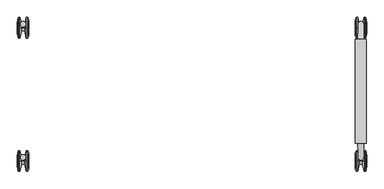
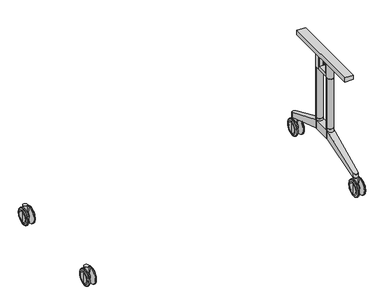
"""IFC4 building model written with IfcOpenShell, lengths in millimetres: furniture geometry."""

from ifc_helpers import new_model, si_unit, point, frame, frame_2d, origin, place, context, project, spatial, polyline, circle_curve, ellipse_curve, trimmed, segment, composite_curve, outline, extrude, source, transform, mapped, element, save
from ifc_brep_helpers import plane_surface, cylinder_surface, revolved_surface, advanced_brep


def furniture_5963346a(model_context):
    return source(origin(), model_context, "Body", "SolidModel", [
        advanced_brep(
        [(840.300346, 204.1135107, 49.9999988), (840.300346, 204.1135107, 19.8683152), (840.300346, 204.1135107, 80.1316828), (785.3003238, 204.1135107, 19.8683152), (785.3003238, 204.1135107, 49.9999988), (785.3003238, 204.1135107, 80.1316828), (789.6165382, 204.1135107, 2.051318), (786.8398166, 204.1135107, 10.381507), (786.8398166, 204.1135107, 89.6184911), (789.6165382, 204.1135107, 97.9486801), (797.300318, 204.1135107, -1.2e-06), (792.4625889, 204.1135107, -1.2e-06), (792.4625889, 204.1135107, 99.9999992), (797.300318, 204.1135107, 99.9999992), (805.3003021, 204.1135107, 35.0000003), (805.3003021, 204.1135107, 64.9999978), (820.3003676, 204.1135107, 35.0000003), (820.3003676, 204.1135107, 64.9999978), (828.3003517, 204.1135107, -1.2e-06), (828.3003517, 204.1135107, 99.9999992), (833.1380808, 204.1135107, -1.2e-06), (833.1380808, 204.1135107, 99.9999992), (838.7608532, 204.1135107, 10.381507), (835.9841316, 204.1135107, 2.051318), (835.9841316, 204.1135107, 97.9486801), (838.7608532, 204.1135107, 89.6184911)],
        [
            (0, 1),
            (1, 2, circle_curve(frame((840.300346, 204.1135107, 49.999999), z_axis=(1.0, 0.0, 0.0), x_axis=(0.0, 0.0, 1.0)), 30.1316838)),
            (2, 0),
            (2, 1, circle_curve(frame((840.300346, 204.1135107, 49.999999), z_axis=(1.0, 0.0, 0.0), x_axis=(0.0, 0.0, 1.0)), 30.1316838)),
            (3, 4),
            (4, 5),
            (5, 3, circle_curve(frame((785.3003238, 204.1135107, 49.999999), z_axis=(-1.0, 0.0, 0.0), x_axis=(0.0, 0.0, 1.0)), 30.1316838)),
            (3, 5, circle_curve(frame((785.3003238, 204.1135107, 49.999999), z_axis=(-1.0, 0.0, 0.0), x_axis=(0.0, 0.0, 1.0)), 30.1316838)),
            (6, 7),
            (7, 8, circle_curve(frame((786.8398166, 204.1135107, 49.999999), z_axis=(1.0, 0.0, 0.0), x_axis=(0.0, 0.0, 1.0)), 39.618492)),
            (8, 9),
            (9, 6, circle_curve(frame((789.6165382, 204.1135107, 49.999999), z_axis=(-1.0, 0.0, 0.0), x_axis=(0.0, 0.0, 1.0)), 47.948681)),
            (8, 7, circle_curve(frame((786.8398166, 204.1135107, 49.999999), z_axis=(1.0, 0.0, 0.0), x_axis=(0.0, 0.0, 1.0)), 39.618492)),
            (6, 9, circle_curve(frame((789.6165382, 204.1135107, 49.999999), z_axis=(-1.0, 0.0, 0.0), x_axis=(0.0, 0.0, 1.0)), 47.948681)),
            (10, 11),
            (11, 12, circle_curve(frame((792.4625889, 204.1135107, 49.999999), z_axis=(1.0, 0.0, 0.0), x_axis=(0.0, 0.0, 1.0)), 50.0000002)),
            (12, 13),
            (13, 10, circle_curve(frame((797.300318, 204.1135107, 49.999999), z_axis=(-1.0, 0.0, 0.0), x_axis=(0.0, 0.0, 1.0)), 50.0000002)),
            (12, 11, circle_curve(frame((792.4625889, 204.1135107, 49.999999), z_axis=(1.0, 0.0, 0.0), x_axis=(0.0, 0.0, 1.0)), 50.0000002)),
            (10, 13, circle_curve(frame((797.300318, 204.1135107, 49.999999), z_axis=(-1.0, 0.0, 0.0), x_axis=(0.0, 0.0, 1.0)), 50.0000002)),
            (14, 10),
            (13, 15),
            (15, 14, circle_curve(frame((805.3003021, 204.1135107, 49.999999), z_axis=(-1.0, 0.0, 0.0), x_axis=(0.0, 0.0, 1.0)), 14.9999987)),
            (14, 15, circle_curve(frame((805.3003021, 204.1135107, 49.999999), z_axis=(-1.0, 0.0, 0.0), x_axis=(0.0, 0.0, 1.0)), 14.9999987)),
            (16, 14),
            (15, 17),
            (17, 16, circle_curve(frame((820.3003676, 204.1135107, 49.999999), z_axis=(-1.0, 0.0, 0.0), x_axis=(0.0, 0.0, 1.0)), 14.9999987)),
            (16, 17, circle_curve(frame((820.3003676, 204.1135107, 49.999999), z_axis=(-1.0, 0.0, 0.0), x_axis=(0.0, 0.0, 1.0)), 14.9999987)),
            (18, 16),
            (17, 19),
            (19, 18, circle_curve(frame((828.3003517, 204.1135107, 49.999999), z_axis=(-1.0, 0.0, 0.0), x_axis=(0.0, 0.0, 1.0)), 50.0000002)),
            (18, 19, circle_curve(frame((828.3003517, 204.1135107, 49.999999), z_axis=(-1.0, 0.0, 0.0), x_axis=(0.0, 0.0, 1.0)), 50.0000002)),
            (20, 18),
            (19, 21),
            (21, 20, circle_curve(frame((833.1380808, 204.1135107, 49.999999), z_axis=(-1.0, 0.0, 0.0), x_axis=(0.0, 0.0, 1.0)), 50.0000002)),
            (20, 21, circle_curve(frame((833.1380808, 204.1135107, 49.999999), z_axis=(-1.0, 0.0, 0.0), x_axis=(0.0, 0.0, 1.0)), 50.0000002)),
            (22, 23),
            (23, 24, circle_curve(frame((835.9841316, 204.1135107, 49.999999), z_axis=(1.0, 0.0, 0.0), x_axis=(0.0, 0.0, 1.0)), 47.948681)),
            (24, 25),
            (25, 22, circle_curve(frame((838.7608532, 204.1135107, 49.999999), z_axis=(-1.0, 0.0, 0.0), x_axis=(0.0, 0.0, 1.0)), 39.618492)),
            (24, 23, circle_curve(frame((835.9841316, 204.1135107, 49.999999), z_axis=(1.0, 0.0, 0.0), x_axis=(0.0, 0.0, 1.0)), 47.948681)),
            (22, 25, circle_curve(frame((838.7608532, 204.1135107, 49.999999), z_axis=(-1.0, 0.0, 0.0), x_axis=(0.0, 0.0, 1.0)), 39.618492)),
            (7, 3, circle_curve(frame((815.3003238, 204.1135107, 19.8683152), z_axis=(0.0, 1.0000000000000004, 0.0), x_axis=(-1.0000000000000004, 0.0, 0.0)), 30.0)),
            (5, 8, circle_curve(frame((815.3003238, 204.1135107, 80.1316828), z_axis=(0.0, 1.0000000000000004, 0.0), x_axis=(-1.0000000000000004, 0.0, 0.0)), 30.0)),
            (11, 6, circle_curve(frame((792.4625889, 204.1135107, 2.9999988), z_axis=(0.0, 1.0000000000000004, 0.0), x_axis=(-1.0000000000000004, 0.0, 0.0)), 3.0)),
            (9, 12, circle_curve(frame((792.4625889, 204.1135107, 96.9999992), z_axis=(0.0, 1.0000000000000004, 0.0), x_axis=(-1.0000000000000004, 0.0, 0.0)), 3.0)),
            (23, 20, circle_curve(frame((833.1380808, 204.1135107, 2.9999988), z_axis=(0.0, 1.0000000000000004, 0.0), x_axis=(-1.0000000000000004, 0.0, 0.0)), 3.0)),
            (21, 24, circle_curve(frame((833.1380808, 204.1135107, 96.9999992), z_axis=(0.0, 1.0000000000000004, 0.0), x_axis=(-1.0000000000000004, 0.0, 0.0)), 3.0)),
            (1, 22, circle_curve(frame((810.300346, 204.1135107, 19.8683152), z_axis=(0.0, 1.0000000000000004, 0.0), x_axis=(-1.0000000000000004, 0.0, 0.0)), 30.0)),
            (25, 2, circle_curve(frame((810.300346, 204.1135107, 80.1316828), z_axis=(0.0, 1.0000000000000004, 0.0), x_axis=(-1.0000000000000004, 0.0, 0.0)), 30.0)),
        ],
        [
            plane_surface(frame((840.300346, 204.1135107, 49.999999), z_axis=(1.0, 0.0, 0.0), x_axis=(0.0, 0.0, 1.0))),
            plane_surface(frame((785.3003238, 204.1135107, 49.999999), z_axis=(-1.0, 0.0, 0.0), x_axis=(0.0, 0.0, 1.0))),
            revolved_surface(polyline([(786.8398166, 204.1135107, 89.6184911), (789.6165382, 204.1135107, 97.9486801)]), (851.8660385, 204.1135107, 49.999999), (1.0000000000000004, 0.0, 0.0)),
            cylinder_surface(frame((851.8660385, 204.1135107, 49.999999), z_axis=(1.0000000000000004, 0.0, 0.0), x_axis=(0.0, 0.0, 1.0)), 50.0000002),
            revolved_surface(polyline([(797.300318, 204.1135107, 99.9999992), (805.3003021, 204.1135107, 64.9999978)]), (851.8660385, 204.1135107, 49.999999), (1.0000000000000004, 0.0, 0.0)),
            cylinder_surface(frame((851.8660385, 204.1135107, 49.999999), z_axis=(1.0000000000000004, 0.0, 0.0), x_axis=(0.0, 0.0, 1.0)), 14.9999987),
            revolved_surface(polyline([(820.3003676, 204.1135107, 64.9999978), (828.3003517, 204.1135107, 99.9999992)]), (851.8660385, 204.1135107, 49.999999), (1.0000000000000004, 0.0, 0.0)),
            revolved_surface(polyline([(835.9841316, 204.1135107, 97.9486801), (838.7608532, 204.1135107, 89.6184911)]), (851.8660385, 204.1135107, 49.999999), (1.0000000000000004, 0.0, 0.0)),
            revolved_surface(trimmed(ellipse_curve(frame((815.3003238, 204.1135107, 80.1316828), z_axis=(0.0, 1.0000000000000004, 0.0), x_axis=(-1.0000000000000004, 0.0, 0.0)), 30.0, 30.0), [point((785.3003238, 204.1135107, 80.1316828))], [point((786.8398166, 204.1135107, 89.6184911))], True, "CARTESIAN"), (851.8660385, 204.1135107, 49.999999), (1.0000000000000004, 0.0, 0.0)),
            revolved_surface(trimmed(ellipse_curve(frame((792.4625889, 204.1135107, 96.9999992), z_axis=(0.0, 1.0000000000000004, 0.0), x_axis=(-1.0000000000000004, 0.0, 0.0)), 3.0, 3.0), [point((789.6165382, 204.1135107, 97.9486801))], [point((792.4625889, 204.1135107, 99.9999992))], True, "CARTESIAN"), (851.8660385, 204.1135107, 49.999999), (1.0000000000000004, 0.0, 0.0)),
            revolved_surface(trimmed(ellipse_curve(frame((833.1380808, 204.1135107, 96.9999992), z_axis=(0.0, 1.0000000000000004, 0.0), x_axis=(-1.0000000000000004, 0.0, 0.0)), 3.0, 3.0), [point((833.1380808, 204.1135107, 99.9999992))], [point((835.9841316, 204.1135107, 97.9486801))], True, "CARTESIAN"), (851.8660385, 204.1135107, 49.999999), (1.0000000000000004, 0.0, 0.0)),
            revolved_surface(trimmed(ellipse_curve(frame((810.300346, 204.1135107, 80.1316828), z_axis=(0.0, 1.0000000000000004, 0.0), x_axis=(-1.0000000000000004, 0.0, 0.0)), 30.0, 30.0), [point((838.7608532, 204.1135107, 89.6184911))], [point((840.300346, 204.1135107, 80.1316828))], True, "CARTESIAN"), (851.8660385, 204.1135107, 49.999999), (1.0000000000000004, 0.0, 0.0)),
        ],
        [
            (0, [[1, 2, 3]]),
            (0, [[-3, 4, -1]]),
            (1, [[5, 6, 7]]),
            (1, [[-6, -5, 8]]),
            (2, [[9, 10, 11, 12]]),
            (2, [[-11, 13, -9, 14]]),
            (3, [[15, 16, 17, 18]]),
            (3, [[-17, 19, -15, 20]]),
            (4, [[21, -18, 22, 23]]),
            (4, [[-22, -20, -21, 24]]),
            (5, [[25, -23, 26, 27]]),
            (5, [[-26, -24, -25, 28]]),
            (6, [[29, -27, 30, 31]]),
            (6, [[-30, -28, -29, 32]]),
            (3, [[33, -31, 34, 35]]),
            (3, [[-34, -32, -33, 36]]),
            (7, [[37, 38, 39, 40]]),
            (7, [[-39, 41, -37, 42]]),
            (8, [[43, -7, 44, -10]]),
            (8, [[-44, -8, -43, -13]]),
            (9, [[45, -12, 46, -16]]),
            (9, [[-46, -14, -45, -19]]),
            (10, [[47, -35, 48, -38]]),
            (10, [[-48, -36, -47, -41]]),
            (11, [[49, -40, 50, -2]]),
            (11, [[-50, -42, -49, -4]]),
        ],
    ),
        extrude(outline(composite_curve([segment(trimmed(circle_curve(frame_2d((812.8003349, 221.5135103)), 13.1), [point((825.9003349, 221.5135103))], [point((799.7003349, 221.5135103))], False, "CARTESIAN"), True, "CONTINUOUS"), segment(trimmed(circle_curve(frame_2d((812.8003349, 221.5135103)), 13.1), [point((799.7003349, 221.5135103))], [point((825.9003349, 221.5135103))], False, "CARTESIAN"), True, "CONTINUOUS")], self_intersect=False)), frame((0.0, 0.0, 50.0), z_axis=(0.0, 0.0, 1.0), x_axis=(1.0, 0.0, 0.0)), (0.0, 0.0, 1.0), 55.0),
        advanced_brep(
        [(785.3003238, -436.9185854, 49.9999992), (785.3003238, -436.9185854, 80.1316828), (785.3003238, -436.9185854, 19.8683152), (840.300346, -436.9185854, 19.8683152), (840.300346, -436.9185854, 80.1316828), (840.300346, -436.9185854, 49.9999992), (835.9841316, -436.9185854, 2.051318), (835.9841316, -436.9185854, 97.9486801), (838.7608532, -436.9185854, 89.6184911), (838.7608532, -436.9185854, 10.381507), (828.3003517, -436.9185854, -1.2e-06), (828.3003517, -436.9185854, 99.9999992), (833.1380808, -436.9185854, 99.9999992), (833.1380808, -436.9185854, -1.2e-06), (820.3003676, -436.9185854, 35.0000003), (820.3003676, -436.9185854, 64.9999978), (805.3003021, -436.9185854, 35.0000003), (805.3003021, -436.9185854, 64.9999978), (797.300318, -436.9185854, -1.2e-06), (797.300318, -436.9185854, 99.9999992), (792.4625889, -436.9185854, -1.2e-06), (792.4625889, -436.9185854, 99.9999992), (786.8398166, -436.9185854, 10.381507), (786.8398166, -436.9185854, 89.6184911), (789.6165382, -436.9185854, 97.9486801), (789.6165382, -436.9185854, 2.051318)],
        [
            (0, 1),
            (1, 2, circle_curve(frame((785.3003238, -436.9185854, 49.999999), z_axis=(-1.0, 0.0, 0.0), x_axis=(0.0, 0.0, 1.0)), 30.1316838)),
            (2, 0),
            (2, 1, circle_curve(frame((785.3003238, -436.9185854, 49.999999), z_axis=(-1.0, 0.0, 0.0), x_axis=(0.0, 0.0, 1.0)), 30.1316838)),
            (3, 4, circle_curve(frame((840.300346, -436.9185854, 49.999999), z_axis=(1.0, 0.0, 0.0), x_axis=(0.0, 0.0, 1.0)), 30.1316838)),
            (4, 5),
            (5, 3),
            (4, 3, circle_curve(frame((840.300346, -436.9185854, 49.999999), z_axis=(1.0, 0.0, 0.0), x_axis=(0.0, 0.0, 1.0)), 30.1316838)),
            (6, 7, circle_curve(frame((835.9841316, -436.9185854, 49.999999), z_axis=(1.0, 0.0, 0.0), x_axis=(0.0, 0.0, 1.0)), 47.948681)),
            (7, 8),
            (8, 9, circle_curve(frame((838.7608532, -436.9185854, 49.999999), z_axis=(-1.0, 0.0, 0.0), x_axis=(0.0, 0.0, 1.0)), 39.618492)),
            (9, 6),
            (7, 6, circle_curve(frame((835.9841316, -436.9185854, 49.999999), z_axis=(1.0, 0.0, 0.0), x_axis=(0.0, 0.0, 1.0)), 47.948681)),
            (9, 8, circle_curve(frame((838.7608532, -436.9185854, 49.999999), z_axis=(-1.0, 0.0, 0.0), x_axis=(0.0, 0.0, 1.0)), 39.618492)),
            (10, 11, circle_curve(frame((828.3003517, -436.9185854, 49.999999), z_axis=(1.0, 0.0, 0.0), x_axis=(0.0, 0.0, 1.0)), 50.0000002)),
            (11, 12),
            (12, 13, circle_curve(frame((833.1380808, -436.9185854, 49.999999), z_axis=(-1.0, 0.0, 0.0), x_axis=(0.0, 0.0, 1.0)), 50.0000002)),
            (13, 10),
            (11, 10, circle_curve(frame((828.3003517, -436.9185854, 49.999999), z_axis=(1.0, 0.0, 0.0), x_axis=(0.0, 0.0, 1.0)), 50.0000002)),
            (13, 12, circle_curve(frame((833.1380808, -436.9185854, 49.999999), z_axis=(-1.0, 0.0, 0.0), x_axis=(0.0, 0.0, 1.0)), 50.0000002)),
            (14, 15, circle_curve(frame((820.3003676, -436.9185854, 49.999999), z_axis=(1.0, 0.0, 0.0), x_axis=(0.0, 0.0, 1.0)), 14.9999987)),
            (15, 11),
            (10, 14),
            (15, 14, circle_curve(frame((820.3003676, -436.9185854, 49.999999), z_axis=(1.0, 0.0, 0.0), x_axis=(0.0, 0.0, 1.0)), 14.9999987)),
            (16, 17, circle_curve(frame((805.3003021, -436.9185854, 49.999999), z_axis=(1.0, 0.0, 0.0), x_axis=(0.0, 0.0, 1.0)), 14.9999987)),
            (17, 15),
            (14, 16),
            (17, 16, circle_curve(frame((805.3003021, -436.9185854, 49.999999), z_axis=(1.0, 0.0, 0.0), x_axis=(0.0, 0.0, 1.0)), 14.9999987)),
            (18, 19, circle_curve(frame((797.300318, -436.9185854, 49.999999), z_axis=(1.0, 0.0, 0.0), x_axis=(0.0, 0.0, 1.0)), 50.0000002)),
            (19, 17),
            (16, 18),
            (19, 18, circle_curve(frame((797.300318, -436.9185854, 49.999999), z_axis=(1.0, 0.0, 0.0), x_axis=(0.0, 0.0, 1.0)), 50.0000002)),
            (20, 21, circle_curve(frame((792.4625889, -436.9185854, 49.999999), z_axis=(1.0, 0.0, 0.0), x_axis=(0.0, 0.0, 1.0)), 50.0000002)),
            (21, 19),
            (18, 20),
            (21, 20, circle_curve(frame((792.4625889, -436.9185854, 49.999999), z_axis=(1.0, 0.0, 0.0), x_axis=(0.0, 0.0, 1.0)), 50.0000002)),
            (22, 23, circle_curve(frame((786.8398166, -436.9185854, 49.999999), z_axis=(1.0, 0.0, 0.0), x_axis=(0.0, 0.0, 1.0)), 39.618492)),
            (23, 24),
            (24, 25, circle_curve(frame((789.6165382, -436.9185854, 49.999999), z_axis=(-1.0, 0.0, 0.0), x_axis=(0.0, 0.0, 1.0)), 47.948681)),
            (25, 22),
            (23, 22, circle_curve(frame((786.8398166, -436.9185854, 49.999999), z_axis=(1.0, 0.0, 0.0), x_axis=(0.0, 0.0, 1.0)), 39.618492)),
            (25, 24, circle_curve(frame((789.6165382, -436.9185854, 49.999999), z_axis=(-1.0, 0.0, 0.0), x_axis=(0.0, 0.0, 1.0)), 47.948681)),
            (8, 4, circle_curve(frame((810.300346, -436.9185854, 80.1316828), z_axis=(0.0, 1.0, 0.0), x_axis=(1.0, 0.0, 0.0)), 30.0)),
            (3, 9, circle_curve(frame((810.300346, -436.9185854, 19.8683152), z_axis=(0.0, 1.0, 0.0), x_axis=(1.0, 0.0, 0.0)), 30.0)),
            (12, 7, circle_curve(frame((833.1380808, -436.9185854, 96.9999992), z_axis=(0.0, 1.0, 0.0), x_axis=(1.0, 0.0, 0.0)), 3.0)),
            (6, 13, circle_curve(frame((833.1380808, -436.9185854, 2.9999988), z_axis=(0.0, 1.0, 0.0), x_axis=(1.0, 0.0, 0.0)), 3.0)),
            (24, 21, circle_curve(frame((792.4625889, -436.9185854, 96.9999992), z_axis=(0.0, 1.0, 0.0), x_axis=(1.0, 0.0, 0.0)), 3.0)),
            (20, 25, circle_curve(frame((792.4625889, -436.9185854, 2.9999988), z_axis=(0.0, 1.0, 0.0), x_axis=(1.0, 0.0, 0.0)), 3.0)),
            (1, 23, circle_curve(frame((815.3003238, -436.9185854, 80.1316828), z_axis=(0.0, 1.0, 0.0), x_axis=(1.0, 0.0, 0.0)), 30.0)),
            (22, 2, circle_curve(frame((815.3003238, -436.9185854, 19.8683152), z_axis=(0.0, 1.0, 0.0), x_axis=(1.0, 0.0, 0.0)), 30.0)),
        ],
        [
            plane_surface(frame((785.3003238, -436.9185854, 49.999999), z_axis=(-1.0, 0.0, 0.0), x_axis=(0.0, 0.0, 1.0))),
            plane_surface(frame((840.300346, -436.9185854, 49.999999), z_axis=(1.0, 0.0, 0.0), x_axis=(0.0, 0.0, 1.0))),
            revolved_surface(polyline([(838.7608532, -436.9185854, 89.6184911), (835.9841316, -436.9185854, 97.9486801)]), (773.7346312, -436.9185854, 49.999999), (-1.0, 0.0, 0.0)),
            cylinder_surface(frame((773.7346312, -436.9185854, 49.999999), z_axis=(-1.0, 0.0, 0.0), x_axis=(0.0, 0.0, 1.0)), 50.0000002),
            revolved_surface(polyline([(828.3003517, -436.9185854, 99.9999992), (820.3003676, -436.9185854, 64.9999978)]), (773.7346312, -436.9185854, 49.999999), (-1.0, 0.0, 0.0)),
            cylinder_surface(frame((773.7346312, -436.9185854, 49.999999), z_axis=(-1.0, 0.0, 0.0), x_axis=(0.0, 0.0, 1.0)), 14.9999987),
            revolved_surface(polyline([(805.3003021, -436.9185854, 64.9999978), (797.300318, -436.9185854, 99.9999992)]), (773.7346312, -436.9185854, 49.999999), (-1.0, 0.0, 0.0)),
            revolved_surface(polyline([(789.6165382, -436.9185854, 97.9486801), (786.8398166, -436.9185854, 89.6184911)]), (773.7346312, -436.9185854, 49.999999), (-1.0, 0.0, 0.0)),
            revolved_surface(trimmed(ellipse_curve(frame((810.300346, -436.9185854, 80.1316828), z_axis=(0.0, -1.0, 0.0), x_axis=(1.0, 0.0, 0.0)), 30.0, 30.0), [point((840.300346, -436.9185854, 80.1316828))], [point((838.7608532, -436.9185854, 89.6184911))], True, "CARTESIAN"), (773.7346312, -436.9185854, 49.999999), (-1.0, 0.0, 0.0)),
            revolved_surface(trimmed(ellipse_curve(frame((833.1380808, -436.9185854, 96.9999992), z_axis=(0.0, -1.0, 0.0), x_axis=(1.0, 0.0, 0.0)), 3.0, 3.0), [point((835.9841316, -436.9185854, 97.9486801))], [point((833.1380808, -436.9185854, 99.9999992))], True, "CARTESIAN"), (773.7346312, -436.9185854, 49.999999), (-1.0, 0.0, 0.0)),
            revolved_surface(trimmed(ellipse_curve(frame((792.4625889, -436.9185854, 96.9999992), z_axis=(0.0, -1.0, 0.0), x_axis=(1.0, 0.0, 0.0)), 3.0, 3.0), [point((792.4625889, -436.9185854, 99.9999992))], [point((789.6165382, -436.9185854, 97.9486801))], True, "CARTESIAN"), (773.7346312, -436.9185854, 49.999999), (-1.0, 0.0, 0.0)),
            revolved_surface(trimmed(ellipse_curve(frame((815.3003238, -436.9185854, 80.1316828), z_axis=(0.0, -1.0, 0.0), x_axis=(1.0, 0.0, 0.0)), 30.0, 30.0), [point((786.8398166, -436.9185854, 89.6184911))], [point((785.3003238, -436.9185854, 80.1316828))], True, "CARTESIAN"), (773.7346312, -436.9185854, 49.999999), (-1.0, 0.0, 0.0)),
        ],
        [
            (0, [[1, 2, 3]]),
            (0, [[-3, 4, -1]]),
            (1, [[5, 6, 7]]),
            (1, [[8, -7, -6]]),
            (2, [[9, 10, 11, 12]]),
            (2, [[13, -12, 14, -10]]),
            (3, [[15, 16, 17, 18]]),
            (3, [[19, -18, 20, -16]]),
            (4, [[21, 22, -15, 23]]),
            (4, [[24, -23, -19, -22]]),
            (5, [[25, 26, -21, 27]]),
            (5, [[28, -27, -24, -26]]),
            (6, [[29, 30, -25, 31]]),
            (6, [[32, -31, -28, -30]]),
            (3, [[33, 34, -29, 35]]),
            (3, [[36, -35, -32, -34]]),
            (7, [[37, 38, 39, 40]]),
            (7, [[41, -40, 42, -38]]),
            (8, [[-11, 43, -5, 44]]),
            (8, [[-14, -44, -8, -43]]),
            (9, [[-17, 45, -9, 46]]),
            (9, [[-20, -46, -13, -45]]),
            (10, [[-39, 47, -33, 48]]),
            (10, [[-42, -48, -36, -47]]),
            (11, [[-2, 49, -37, 50]]),
            (11, [[-4, -50, -41, -49]]),
        ],
    ),
        extrude(outline(composite_curve([segment(trimmed(circle_curve(frame_2d((812.8003349, -419.5185858)), 13.1), [point((799.7003349, -419.5185858))], [point((825.9003349, -419.5185858))], False, "CARTESIAN"), True, "CONTINUOUS"), segment(trimmed(circle_curve(frame_2d((812.8003349, -419.5185858)), 13.1), [point((825.9003349, -419.5185858))], [point((799.7003349, -419.5185858))], False, "CARTESIAN"), True, "CONTINUOUS")], self_intersect=False)), frame((0.0, 0.0, 50.0), z_axis=(0.0, 0.0, 1.0), x_axis=(1.0, 0.0, 0.0)), (0.0, 0.0, 1.0), 55.0),
        extrude(outline(composite_curve([segment(trimmed(circle_curve(frame_2d((812.8, -154.0488451)), 20.0), [point((792.8, -154.0488451))], [point((832.8, -154.0488451))], False, "CARTESIAN"), True, "CONTINUOUS"), segment(trimmed(circle_curve(frame_2d((812.8, -154.0488451)), 20.0), [point((832.8, -154.0488451))], [point((792.8, -154.0488451))], False, "CARTESIAN"), True, "CONTINUOUS")], self_intersect=False)), frame((0.0, 0.0, 193.3080085), z_axis=(0.0, 0.0, 1.0), x_axis=(1.0, 0.0, 0.0)), (0.0, 0.0, 1.0), 68.8536941),
        extrude(outline(composite_curve([segment(trimmed(circle_curve(frame_2d((812.8, -44.0488461)), 20.0), [point((792.8, -44.0488461))], [point((832.8, -44.0488461))], False, "CARTESIAN"), True, "CONTINUOUS"), segment(trimmed(circle_curve(frame_2d((812.8, -44.0488461)), 20.0), [point((832.8, -44.0488461))], [point((792.8, -44.0488461))], False, "CARTESIAN"), True, "CONTINUOUS")], self_intersect=False)), frame((0.0, 0.0, 193.3080085), z_axis=(0.0, 0.0, 1.0), x_axis=(1.0, 0.0, 0.0)), (0.0, 0.0, 1.0), 68.8536941),
        extrude(outline(composite_curve([segment(trimmed(circle_curve(frame_2d((812.8, -154.0488451)), 20.0), [point((792.8, -154.0488451))], [point((832.8, -154.0488451))], False, "CARTESIAN"), True, "CONTINUOUS"), segment(trimmed(circle_curve(frame_2d((812.8, -154.0488451)), 20.0), [point((832.8, -154.0488451))], [point((792.8, -154.0488451))], False, "CARTESIAN"), True, "CONTINUOUS")], self_intersect=False)), frame((0.0, 0.0, 262.1617027), z_axis=(0.0, 0.0, 1.0), x_axis=(1.0, 0.0, 0.0)), (0.0, 0.0, 1.0), 318.0882973),
        extrude(outline(composite_curve([segment(trimmed(circle_curve(frame_2d((812.8, -44.0488461)), 20.0), [point((792.8, -44.0488461))], [point((832.8, -44.0488461))], False, "CARTESIAN"), True, "CONTINUOUS"), segment(trimmed(circle_curve(frame_2d((812.8, -44.0488461)), 20.0), [point((832.8, -44.0488461))], [point((792.8, -44.0488461))], False, "CARTESIAN"), True, "CONTINUOUS")], self_intersect=False)), frame((0.0, 0.0, 262.1617027), z_axis=(0.0, 0.0, 1.0), x_axis=(1.0, 0.0, 0.0)), (0.0, 0.0, 1.0), 318.0882973),
        extrude(outline(polyline([(838.8000118, 147.9511612), (838.8000118, -352.0488426), (786.7999882, -352.0488426), (786.7999882, 147.9511612), (838.8000118, 147.9511612)])), frame((0.0, 0.0, 676.2500168), z_axis=(0.0, 0.0, 1.0), x_axis=(1.0, 0.0, 0.0)), (0.0, 0.0, 1.0), 27.9999624),
        advanced_brep(
        [(797.8001238, -140.8200278, 676.2500168), (827.8001095, -140.8201331, 676.2500168), (827.8001095, -134.0488456, 676.2500168), (797.8001238, -134.0488456, 676.2500168), (827.8001095, -57.2775581, 676.2500168), (797.8001238, -57.2776634, 676.2500168), (797.8001238, -64.0488456, 676.2500168), (827.8001095, -64.0488456, 676.2500168), (797.8001238, -57.2776634, 580.25), (827.8001095, -57.2775581, 580.25), (827.8001095, -140.8201331, 580.25), (797.8001238, -140.8200278, 580.25), (797.8001238, -134.0488456, 598.2500176), (797.8001238, -64.0488456, 598.2500176), (827.8001095, -64.0488456, 598.2500176), (827.8001095, -134.0488456, 598.2500176)],
        [
            (0, 1, circle_curve(frame((812.8000702, -154.0488451, 676.2500168), z_axis=(0.0, 0.0, 1.0), x_axis=(1.0, 0.0, 0.0)), 20.0)),
            (1, 2),
            (2, 3),
            (3, 0),
            (4, 5, circle_curve(frame((812.8000702, -44.0488461, 676.2500168), z_axis=(0.0, 0.0, 1.0), x_axis=(1.0, 0.0, 0.0)), 20.0)),
            (5, 6),
            (6, 7),
            (7, 4),
            (8, 9, circle_curve(frame((812.8000702, -44.0488461, 580.25), z_axis=(0.0, 0.0, -1.0), x_axis=(1.0, 0.0, 0.0)), 20.0)),
            (9, 10),
            (10, 11, circle_curve(frame((812.8000702, -154.0488451, 580.25), z_axis=(0.0, 0.0, -1.0), x_axis=(1.0, 0.0, 0.0)), 20.0)),
            (11, 8),
            (11, 0),
            (3, 12),
            (12, 13),
            (13, 6),
            (5, 8),
            (10, 1),
            (9, 4),
            (7, 14),
            (14, 15),
            (15, 2),
            (15, 12),
            (14, 13),
        ],
        [
            plane_surface(frame((797.8001238, -140.8200278, 676.2500168), z_axis=(0.0, 0.0, 1.0), x_axis=(0.0, -1.0, 0.0))),
            plane_surface(frame((797.8001238, -140.8200278, 580.25), z_axis=(0.0, 0.0, -1.0), x_axis=(0.0, 1.0, 0.0))),
            plane_surface(frame((797.8001238, -57.2776634, 676.2500168), z_axis=(-1.0, 0.0, 0.0), x_axis=(0.0, 0.0, -1.0))),
            cylinder_surface(frame((812.8000702, -154.0488451, 580.25), z_axis=(0.0, 0.0, 1.0), x_axis=(1.0, 0.0, 0.0)), 20.0),
            plane_surface(frame((827.8001095, -140.8201331, 676.2500168), z_axis=(1.0, 0.0, 0.0), x_axis=(0.0, 0.0, -1.0))),
            cylinder_surface(frame((812.8000702, -44.0488461, 580.25), z_axis=(0.0, 0.0, 1.0), x_axis=(1.0, 0.0, 0.0)), 20.0),
            plane_surface(frame((827.8001095, -134.0488456, 676.2500168), z_axis=(0.0, 1.0, 0.0), x_axis=(-1.0, 0.0, 0.0))),
            plane_surface(frame((827.8001095, -134.0488456, 598.2500176), z_axis=(0.0, 0.0, 1.0), x_axis=(-1.0, 0.0, 0.0))),
            plane_surface(frame((827.8001095, -64.0488456, 598.2500176), z_axis=(0.0, -1.0, 0.0), x_axis=(-1.0, 0.0, 0.0))),
        ],
        [
            (0, [[1, 2, 3, 4]]),
            (0, [[5, 6, 7, 8]]),
            (1, [[9, 10, 11, 12]]),
            (2, [[-12, 13, -4, 14, 15, 16, -6, 17]]),
            (3, [[-1, -13, -11, 18]]),
            (4, [[-10, 19, -8, 20, 21, 22, -2, -18]]),
            (5, [[-5, -19, -9, -17]]),
            (6, [[23, -14, -3, -22]]),
            (7, [[-23, -21, 24, -15]]),
            (8, [[-24, -20, -7, -16]]),
        ],
    ),
        advanced_brep(
        [(832.7999818, -154.0488451, 248.3080085), (832.7999818, -44.0488461, 248.3080085), (792.7999818, -44.0488461, 248.3080085), (792.7999818, -154.0488451, 248.3080085), (792.7999818, -44.0488461, 193.3080085), (792.7999818, -154.0488451, 193.3080085), (832.7999818, -154.0488451, 193.3080085), (832.7999818, -44.0488461, 193.3080085), (826.2728951, 208.4135103, 105.0), (799.327103, 208.4135103, 105.0), (799.6737706, 221.8222582, 105.0), (825.9262294, 221.8222564, 105.0), (799.6737706, 221.8222582, 133.4205559), (825.9262294, 221.8222564, 133.4205567), (832.5999588, -36.3121196, 193.3080085), (793.0000059, -36.3121196, 193.3080085), (825.9262294, -419.9199475, 133.4205567), (799.6737706, -419.9199493, 133.4205559), (825.9262294, -419.9199475, 105.0), (826.2728951, -406.5112014, 105.0), (832.5999588, -161.7855715, 193.3080085), (799.6737706, -419.9199493, 105.0), (793.0000059, -161.7855715, 193.3080085), (799.327103, -406.5112014, 105.0)],
        [
            (0, 1),
            (1, 2),
            (2, 3),
            (3, 0),
            (2, 4),
            (4, 5),
            (5, 3),
            (0, 6),
            (6, 7),
            (7, 1),
            (8, 9),
            (9, 10),
            (10, 11, circle_curve(frame((812.8, 221.4828948, 105.0), z_axis=(0.0, 0.0, -1.0), x_axis=(1.0, 0.0, 0.0)), 13.1306156)),
            (11, 8),
            (12, 2),
            (1, 13),
            (13, 12, ellipse_curve(frame((812.8, 221.4828948, 133.5672007), z_axis=(0.0, 0.3966672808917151, 0.9179624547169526), x_axis=(0.0, 0.9179624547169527, -0.39666728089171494)), 14.3040878, 13.1306156)),
            (8, 14),
            (14, 15),
            (15, 9),
            (16, 0),
            (3, 17),
            (17, 16, ellipse_curve(frame((812.8, -419.5805859, 133.5672007), z_axis=(0.0, -0.3966672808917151, 0.9179624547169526), x_axis=(0.0, -0.9179624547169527, -0.39666728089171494)), 14.3040878, 13.1306156)),
            (16, 18),
            (18, 19),
            (19, 20),
            (20, 6),
            (17, 21),
            (21, 18, circle_curve(frame((812.8, -419.5805859, 105.0), z_axis=(0.0, 0.0, 1.0), x_axis=(1.0, 0.0, 0.0)), 13.1306156)),
            (5, 22),
            (22, 23),
            (23, 21),
            (12, 10),
            (15, 4),
            (13, 11),
            (7, 14),
            (23, 19),
            (22, 20),
        ],
        [
            plane_surface(frame((832.7999818, -44.0488461, 248.3080085), z_axis=(0.0, 0.0, 1.0), x_axis=(0.0, 1.0, 0.0))),
            plane_surface(frame((792.7999818, -44.0488461, 248.3080085), z_axis=(-1.0, 0.0, 0.0), x_axis=(0.0, 0.0, -1.0))),
            plane_surface(frame((832.7999818, -154.0488451, 248.3080085), z_axis=(1.0, 0.0, 0.0), x_axis=(0.0, 0.0, -1.0))),
            plane_surface(frame((834.1794585, 208.4135103, 105.0), z_axis=(0.0, 0.0, -1.0), x_axis=(-1.0, 0.0, 0.0))),
            plane_surface(frame((834.1794585, 235.9511544, 127.3152182), z_axis=(0.0, 0.3966672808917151, 0.9179624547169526), x_axis=(-1.0, 0.0, 0.0))),
            plane_surface(frame((834.1794585, -36.3121196, 193.3080085), z_axis=(0.0, -0.3394229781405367, -0.9406338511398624), x_axis=(-1.0, 0.0, 0.0))),
            plane_surface(frame((834.1794585, -154.0488451, 248.3080085), z_axis=(0.0, -0.3966672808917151, 0.9179624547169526), x_axis=(-1.0, 0.0, 0.0))),
            plane_surface(frame((832.7999818, -154.0488451, 249.0000084), z_axis=(0.9996659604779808, -0.025845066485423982, 0.0), x_axis=(0.0, 0.0, -1.0))),
            cylinder_surface(frame((812.8, -419.5805859, 90.0000025), z_axis=(0.0, 0.0, -1.0), x_axis=(1.0, 0.0, 0.0)), 13.1306156),
            plane_surface(frame((799.6737706, -419.9199493, 249.0000084), z_axis=(-0.9996659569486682, -0.025845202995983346, 0.0), x_axis=(0.0, 0.0, -1.0))),
            plane_surface(frame((792.7999818, -44.0488461, 249.0000084), z_axis=(-0.9996659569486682, 0.025845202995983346, 0.0), x_axis=(0.0, 0.0, -1.0))),
            cylinder_surface(frame((812.8, 221.4828948, 0.0), z_axis=(0.0, 0.0, -1.0), x_axis=(1.0, 0.0, 0.0)), 13.1306156),
            plane_surface(frame((825.9262294, 221.8222564, 249.0000084), z_axis=(0.9996659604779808, 0.025845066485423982, 0.0), x_axis=(0.0, 0.0, -1.0))),
            plane_surface(frame((834.1794585, -434.0488456, 105.0), z_axis=(0.0, 0.0, -1.0), x_axis=(-1.0, 0.0, 0.0))),
            plane_surface(frame((834.1794585, -406.5112014, 105.0), z_axis=(0.0, 0.3394229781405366, -0.9406338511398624), x_axis=(-1.0, 0.0, 0.0))),
            plane_surface(frame((834.1794585, -44.0488461, 193.3080085), z_axis=(0.0, 0.0, -1.0), x_axis=(-1.0, 0.0, 0.0))),
        ],
        [
            (0, [[1, 2, 3, 4]]),
            (1, [[-3, 5, 6, 7]]),
            (2, [[-1, 8, 9, 10]]),
            (3, [[11, 12, 13, 14]]),
            (4, [[15, -2, 16, 17]]),
            (5, [[-11, 18, 19, 20]]),
            (6, [[21, -4, 22, 23]]),
            (7, [[24, 25, 26, 27, -8, -21]]),
            (8, [[-24, -23, 28, 29]]),
            (9, [[-28, -22, -7, 30, 31, 32]]),
            (10, [[33, -12, -20, 34, -5, -15]]),
            (11, [[-33, -17, 35, -13]]),
            (12, [[-35, -16, -10, 36, -18, -14]]),
            (13, [[37, -25, -29, -32]]),
            (14, [[-37, -31, 38, -26]]),
            (15, [[-19, -36, -9, -27, -38, -30, -6, -34]]),
        ],
    ),
        advanced_brep(
        [(-785.299654, 204.1135107, 49.9999988), (-785.299654, 204.1135107, 19.8683152), (-785.299654, 204.1135107, 80.1316828), (-840.2996762, 204.1135107, 19.8683152), (-840.2996762, 204.1135107, 49.9999988), (-840.2996762, 204.1135107, 80.1316828), (-835.9834618, 204.1135107, 2.051318), (-838.7601834, 204.1135107, 10.381507), (-838.7601834, 204.1135107, 89.6184911), (-835.9834618, 204.1135107, 97.9486801), (-828.299682, 204.1135107, -1.2e-06), (-833.1374111, 204.1135107, -1.2e-06), (-833.1374111, 204.1135107, 99.9999992), (-828.299682, 204.1135107, 99.9999992), (-820.2996979, 204.1135107, 35.0000003), (-820.2996979, 204.1135107, 64.9999978), (-805.2996324, 204.1135107, 35.0000003), (-805.2996324, 204.1135107, 64.9999978), (-797.2996483, 204.1135107, -1.2e-06), (-797.2996483, 204.1135107, 99.9999992), (-792.4619192, 204.1135107, -1.2e-06), (-792.4619192, 204.1135107, 99.9999992), (-786.8391468, 204.1135107, 10.381507), (-789.6158684, 204.1135107, 2.051318), (-789.6158684, 204.1135107, 97.9486801), (-786.8391468, 204.1135107, 89.6184911)],
        [
            (0, 1),
            (1, 2, circle_curve(frame((-785.299654, 204.1135107, 49.999999), z_axis=(1.0, 0.0, 0.0), x_axis=(0.0, 0.0, 1.0)), 30.1316838)),
            (2, 0),
            (2, 1, circle_curve(frame((-785.299654, 204.1135107, 49.999999), z_axis=(1.0, 0.0, 0.0), x_axis=(0.0, 0.0, 1.0)), 30.1316838)),
            (3, 4),
            (4, 5),
            (5, 3, circle_curve(frame((-840.2996762, 204.1135107, 49.999999), z_axis=(-1.0, 0.0, 0.0), x_axis=(0.0, 0.0, 1.0)), 30.1316838)),
            (3, 5, circle_curve(frame((-840.2996762, 204.1135107, 49.999999), z_axis=(-1.0, 0.0, 0.0), x_axis=(0.0, 0.0, 1.0)), 30.1316838)),
            (6, 7),
            (7, 8, circle_curve(frame((-838.7601834, 204.1135107, 49.999999), z_axis=(1.0, 0.0, 0.0), x_axis=(0.0, 0.0, 1.0)), 39.618492)),
            (8, 9),
            (9, 6, circle_curve(frame((-835.9834618, 204.1135107, 49.999999), z_axis=(-1.0, 0.0, 0.0), x_axis=(0.0, 0.0, 1.0)), 47.948681)),
            (8, 7, circle_curve(frame((-838.7601834, 204.1135107, 49.999999), z_axis=(1.0, 0.0, 0.0), x_axis=(0.0, 0.0, 1.0)), 39.618492)),
            (6, 9, circle_curve(frame((-835.9834618, 204.1135107, 49.999999), z_axis=(-1.0, 0.0, 0.0), x_axis=(0.0, 0.0, 1.0)), 47.948681)),
            (10, 11),
            (11, 12, circle_curve(frame((-833.1374111, 204.1135107, 49.999999), z_axis=(1.0, 0.0, 0.0), x_axis=(0.0, 0.0, 1.0)), 50.0000002)),
            (12, 13),
            (13, 10, circle_curve(frame((-828.299682, 204.1135107, 49.999999), z_axis=(-1.0, 0.0, 0.0), x_axis=(0.0, 0.0, 1.0)), 50.0000002)),
            (12, 11, circle_curve(frame((-833.1374111, 204.1135107, 49.999999), z_axis=(1.0, 0.0, 0.0), x_axis=(0.0, 0.0, 1.0)), 50.0000002)),
            (10, 13, circle_curve(frame((-828.299682, 204.1135107, 49.999999), z_axis=(-1.0, 0.0, 0.0), x_axis=(0.0, 0.0, 1.0)), 50.0000002)),
            (14, 10),
            (13, 15),
            (15, 14, circle_curve(frame((-820.2996979, 204.1135107, 49.999999), z_axis=(-1.0, 0.0, 0.0), x_axis=(0.0, 0.0, 1.0)), 14.9999987)),
            (14, 15, circle_curve(frame((-820.2996979, 204.1135107, 49.999999), z_axis=(-1.0, 0.0, 0.0), x_axis=(0.0, 0.0, 1.0)), 14.9999987)),
            (16, 14),
            (15, 17),
            (17, 16, circle_curve(frame((-805.2996324, 204.1135107, 49.999999), z_axis=(-1.0, 0.0, 0.0), x_axis=(0.0, 0.0, 1.0)), 14.9999987)),
            (16, 17, circle_curve(frame((-805.2996324, 204.1135107, 49.999999), z_axis=(-1.0, 0.0, 0.0), x_axis=(0.0, 0.0, 1.0)), 14.9999987)),
            (18, 16),
            (17, 19),
            (19, 18, circle_curve(frame((-797.2996483, 204.1135107, 49.999999), z_axis=(-1.0, 0.0, 0.0), x_axis=(0.0, 0.0, 1.0)), 50.0000002)),
            (18, 19, circle_curve(frame((-797.2996483, 204.1135107, 49.999999), z_axis=(-1.0, 0.0, 0.0), x_axis=(0.0, 0.0, 1.0)), 50.0000002)),
            (20, 18),
            (19, 21),
            (21, 20, circle_curve(frame((-792.4619192, 204.1135107, 49.999999), z_axis=(-1.0, 0.0, 0.0), x_axis=(0.0, 0.0, 1.0)), 50.0000002)),
            (20, 21, circle_curve(frame((-792.4619192, 204.1135107, 49.999999), z_axis=(-1.0, 0.0, 0.0), x_axis=(0.0, 0.0, 1.0)), 50.0000002)),
            (22, 23),
            (23, 24, circle_curve(frame((-789.6158684, 204.1135107, 49.999999), z_axis=(1.0, 0.0, 0.0), x_axis=(0.0, 0.0, 1.0)), 47.948681)),
            (24, 25),
            (25, 22, circle_curve(frame((-786.8391468, 204.1135107, 49.999999), z_axis=(-1.0, 0.0, 0.0), x_axis=(0.0, 0.0, 1.0)), 39.618492)),
            (24, 23, circle_curve(frame((-789.6158684, 204.1135107, 49.999999), z_axis=(1.0, 0.0, 0.0), x_axis=(0.0, 0.0, 1.0)), 47.948681)),
            (22, 25, circle_curve(frame((-786.8391468, 204.1135107, 49.999999), z_axis=(-1.0, 0.0, 0.0), x_axis=(0.0, 0.0, 1.0)), 39.618492)),
            (7, 3, circle_curve(frame((-810.2996762, 204.1135107, 19.8683152), z_axis=(0.0, 1.0000000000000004, 0.0), x_axis=(-1.0000000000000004, 0.0, 0.0)), 30.0)),
            (5, 8, circle_curve(frame((-810.2996762, 204.1135107, 80.1316828), z_axis=(0.0, 1.0000000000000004, 0.0), x_axis=(-1.0000000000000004, 0.0, 0.0)), 30.0)),
            (11, 6, circle_curve(frame((-833.1374111, 204.1135107, 2.9999988), z_axis=(0.0, 1.0000000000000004, 0.0), x_axis=(-1.0000000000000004, 0.0, 0.0)), 3.0)),
            (9, 12, circle_curve(frame((-833.1374111, 204.1135107, 96.9999992), z_axis=(0.0, 1.0000000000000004, 0.0), x_axis=(-1.0000000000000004, 0.0, 0.0)), 3.0)),
            (23, 20, circle_curve(frame((-792.4619192, 204.1135107, 2.9999988), z_axis=(0.0, 1.0000000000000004, 0.0), x_axis=(-1.0000000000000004, 0.0, 0.0)), 3.0)),
            (21, 24, circle_curve(frame((-792.4619192, 204.1135107, 96.9999992), z_axis=(0.0, 1.0000000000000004, 0.0), x_axis=(-1.0000000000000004, 0.0, 0.0)), 3.0)),
            (1, 22, circle_curve(frame((-815.299654, 204.1135107, 19.8683152), z_axis=(0.0, 1.0000000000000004, 0.0), x_axis=(-1.0000000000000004, 0.0, 0.0)), 30.0)),
            (25, 2, circle_curve(frame((-815.299654, 204.1135107, 80.1316828), z_axis=(0.0, 1.0000000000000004, 0.0), x_axis=(-1.0000000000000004, 0.0, 0.0)), 30.0)),
        ],
        [
            plane_surface(frame((-785.299654, 204.1135107, 49.999999), z_axis=(1.0, 0.0, 0.0), x_axis=(0.0, 0.0, 1.0))),
            plane_surface(frame((-840.2996762, 204.1135107, 49.999999), z_axis=(-1.0, 0.0, 0.0), x_axis=(0.0, 0.0, 1.0))),
            revolved_surface(polyline([(-838.7601834, 204.1135107, 89.6184911), (-835.9834618, 204.1135107, 97.9486801)]), (-773.7339615, 204.1135107, 49.999999), (1.0000000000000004, 0.0, 0.0)),
            cylinder_surface(frame((-773.7339615, 204.1135107, 49.999999), z_axis=(1.0000000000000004, 0.0, 0.0), x_axis=(0.0, 0.0, 1.0)), 50.0000002),
            revolved_surface(polyline([(-828.299682, 204.1135107, 99.9999992), (-820.2996979, 204.1135107, 64.9999978)]), (-773.7339615, 204.1135107, 49.999999), (1.0000000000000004, 0.0, 0.0)),
            cylinder_surface(frame((-773.7339615, 204.1135107, 49.999999), z_axis=(1.0000000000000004, 0.0, 0.0), x_axis=(0.0, 0.0, 1.0)), 14.9999987),
            revolved_surface(polyline([(-805.2996324, 204.1135107, 64.9999978), (-797.2996483, 204.1135107, 99.9999992)]), (-773.7339615, 204.1135107, 49.999999), (1.0000000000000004, 0.0, 0.0)),
            revolved_surface(polyline([(-789.6158684, 204.1135107, 97.9486801), (-786.8391468, 204.1135107, 89.6184911)]), (-773.7339615, 204.1135107, 49.999999), (1.0000000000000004, 0.0, 0.0)),
            revolved_surface(trimmed(ellipse_curve(frame((-810.2996762, 204.1135107, 80.1316828), z_axis=(0.0, 1.0000000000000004, 0.0), x_axis=(-1.0000000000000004, 0.0, 0.0)), 30.0, 30.0), [point((-840.2996762, 204.1135107, 80.1316828))], [point((-838.7601834, 204.1135107, 89.6184911))], True, "CARTESIAN"), (-773.7339615, 204.1135107, 49.999999), (1.0000000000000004, 0.0, 0.0)),
            revolved_surface(trimmed(ellipse_curve(frame((-833.1374111, 204.1135107, 96.9999992), z_axis=(0.0, 1.0000000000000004, 0.0), x_axis=(-1.0000000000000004, 0.0, 0.0)), 3.0, 3.0), [point((-835.9834618, 204.1135107, 97.9486801))], [point((-833.1374111, 204.1135107, 99.9999992))], True, "CARTESIAN"), (-773.7339615, 204.1135107, 49.999999), (1.0000000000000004, 0.0, 0.0)),
            revolved_surface(trimmed(ellipse_curve(frame((-792.4619192, 204.1135107, 96.9999992), z_axis=(0.0, 1.0000000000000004, 0.0), x_axis=(-1.0000000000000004, 0.0, 0.0)), 3.0, 3.0), [point((-792.4619192, 204.1135107, 99.9999992))], [point((-789.6158684, 204.1135107, 97.9486801))], True, "CARTESIAN"), (-773.7339615, 204.1135107, 49.999999), (1.0000000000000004, 0.0, 0.0)),
            revolved_surface(trimmed(ellipse_curve(frame((-815.299654, 204.1135107, 80.1316828), z_axis=(0.0, 1.0000000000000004, 0.0), x_axis=(-1.0000000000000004, 0.0, 0.0)), 30.0, 30.0), [point((-786.8391468, 204.1135107, 89.6184911))], [point((-785.299654, 204.1135107, 80.1316828))], True, "CARTESIAN"), (-773.7339615, 204.1135107, 49.999999), (1.0000000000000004, 0.0, 0.0)),
        ],
        [
            (0, [[1, 2, 3]]),
            (0, [[-3, 4, -1]]),
            (1, [[5, 6, 7]]),
            (1, [[-6, -5, 8]]),
            (2, [[9, 10, 11, 12]]),
            (2, [[-11, 13, -9, 14]]),
            (3, [[15, 16, 17, 18]]),
            (3, [[-17, 19, -15, 20]]),
            (4, [[21, -18, 22, 23]]),
            (4, [[-22, -20, -21, 24]]),
            (5, [[25, -23, 26, 27]]),
            (5, [[-26, -24, -25, 28]]),
            (6, [[29, -27, 30, 31]]),
            (6, [[-30, -28, -29, 32]]),
            (3, [[33, -31, 34, 35]]),
            (3, [[-34, -32, -33, 36]]),
            (7, [[37, 38, 39, 40]]),
            (7, [[-39, 41, -37, 42]]),
            (8, [[43, -7, 44, -10]]),
            (8, [[-44, -8, -43, -13]]),
            (9, [[45, -12, 46, -16]]),
            (9, [[-46, -14, -45, -19]]),
            (10, [[47, -35, 48, -38]]),
            (10, [[-48, -36, -47, -41]]),
            (11, [[49, -40, 50, -2]]),
            (11, [[-50, -42, -49, -4]]),
        ],
    ),
        extrude(outline(composite_curve([segment(trimmed(circle_curve(frame_2d((-812.7996651, 221.5135103)), 13.1), [point((-799.6996651, 221.5135103))], [point((-825.8996651, 221.5135103))], False, "CARTESIAN"), True, "CONTINUOUS"), segment(trimmed(circle_curve(frame_2d((-812.7996651, 221.5135103)), 13.1), [point((-825.8996651, 221.5135103))], [point((-799.6996651, 221.5135103))], False, "CARTESIAN"), True, "CONTINUOUS")], self_intersect=False)), frame((0.0, 0.0, 50.0), z_axis=(0.0, 0.0, 1.0), x_axis=(1.0, 0.0, 0.0)), (0.0, 0.0, 1.0), 55.0),
        advanced_brep(
        [(-840.2996762, -436.9185854, 49.9999992), (-840.2996762, -436.9185854, 80.1316828), (-840.2996762, -436.9185854, 19.8683152), (-785.299654, -436.9185854, 19.8683152), (-785.299654, -436.9185854, 80.1316828), (-785.299654, -436.9185854, 49.9999992), (-789.6158684, -436.9185854, 2.051318), (-789.6158684, -436.9185854, 97.9486801), (-786.8391468, -436.9185854, 89.6184911), (-786.8391468, -436.9185854, 10.381507), (-797.2996483, -436.9185854, -1.2e-06), (-797.2996483, -436.9185854, 99.9999992), (-792.4619192, -436.9185854, 99.9999992), (-792.4619192, -436.9185854, -1.2e-06), (-805.2996324, -436.9185854, 35.0000003), (-805.2996324, -436.9185854, 64.9999978), (-820.2996979, -436.9185854, 35.0000003), (-820.2996979, -436.9185854, 64.9999978), (-828.299682, -436.9185854, -1.2e-06), (-828.299682, -436.9185854, 99.9999992), (-833.1374111, -436.9185854, -1.2e-06), (-833.1374111, -436.9185854, 99.9999992), (-838.7601834, -436.9185854, 10.381507), (-838.7601834, -436.9185854, 89.6184911), (-835.9834618, -436.9185854, 97.9486801), (-835.9834618, -436.9185854, 2.051318)],
        [
            (0, 1),
            (1, 2, circle_curve(frame((-840.2996762, -436.9185854, 49.999999), z_axis=(-1.0, 0.0, 0.0), x_axis=(0.0, 0.0, 1.0)), 30.1316838)),
            (2, 0),
            (2, 1, circle_curve(frame((-840.2996762, -436.9185854, 49.999999), z_axis=(-1.0, 0.0, 0.0), x_axis=(0.0, 0.0, 1.0)), 30.1316838)),
            (3, 4, circle_curve(frame((-785.299654, -436.9185854, 49.999999), z_axis=(1.0, 0.0, 0.0), x_axis=(0.0, 0.0, 1.0)), 30.1316838)),
            (4, 5),
            (5, 3),
            (4, 3, circle_curve(frame((-785.299654, -436.9185854, 49.999999), z_axis=(1.0, 0.0, 0.0), x_axis=(0.0, 0.0, 1.0)), 30.1316838)),
            (6, 7, circle_curve(frame((-789.6158684, -436.9185854, 49.999999), z_axis=(1.0, 0.0, 0.0), x_axis=(0.0, 0.0, 1.0)), 47.948681)),
            (7, 8),
            (8, 9, circle_curve(frame((-786.8391468, -436.9185854, 49.999999), z_axis=(-1.0, 0.0, 0.0), x_axis=(0.0, 0.0, 1.0)), 39.618492)),
            (9, 6),
            (7, 6, circle_curve(frame((-789.6158684, -436.9185854, 49.999999), z_axis=(1.0, 0.0, 0.0), x_axis=(0.0, 0.0, 1.0)), 47.948681)),
            (9, 8, circle_curve(frame((-786.8391468, -436.9185854, 49.999999), z_axis=(-1.0, 0.0, 0.0), x_axis=(0.0, 0.0, 1.0)), 39.618492)),
            (10, 11, circle_curve(frame((-797.2996483, -436.9185854, 49.999999), z_axis=(1.0, 0.0, 0.0), x_axis=(0.0, 0.0, 1.0)), 50.0000002)),
            (11, 12),
            (12, 13, circle_curve(frame((-792.4619192, -436.9185854, 49.999999), z_axis=(-1.0, 0.0, 0.0), x_axis=(0.0, 0.0, 1.0)), 50.0000002)),
            (13, 10),
            (11, 10, circle_curve(frame((-797.2996483, -436.9185854, 49.999999), z_axis=(1.0, 0.0, 0.0), x_axis=(0.0, 0.0, 1.0)), 50.0000002)),
            (13, 12, circle_curve(frame((-792.4619192, -436.9185854, 49.999999), z_axis=(-1.0, 0.0, 0.0), x_axis=(0.0, 0.0, 1.0)), 50.0000002)),
            (14, 15, circle_curve(frame((-805.2996324, -436.9185854, 49.999999), z_axis=(1.0, 0.0, 0.0), x_axis=(0.0, 0.0, 1.0)), 14.9999987)),
            (15, 11),
            (10, 14),
            (15, 14, circle_curve(frame((-805.2996324, -436.9185854, 49.999999), z_axis=(1.0, 0.0, 0.0), x_axis=(0.0, 0.0, 1.0)), 14.9999987)),
            (16, 17, circle_curve(frame((-820.2996979, -436.9185854, 49.999999), z_axis=(1.0, 0.0, 0.0), x_axis=(0.0, 0.0, 1.0)), 14.9999987)),
            (17, 15),
            (14, 16),
            (17, 16, circle_curve(frame((-820.2996979, -436.9185854, 49.999999), z_axis=(1.0, 0.0, 0.0), x_axis=(0.0, 0.0, 1.0)), 14.9999987)),
            (18, 19, circle_curve(frame((-828.299682, -436.9185854, 49.999999), z_axis=(1.0, 0.0, 0.0), x_axis=(0.0, 0.0, 1.0)), 50.0000002)),
            (19, 17),
            (16, 18),
            (19, 18, circle_curve(frame((-828.299682, -436.9185854, 49.999999), z_axis=(1.0, 0.0, 0.0), x_axis=(0.0, 0.0, 1.0)), 50.0000002)),
            (20, 21, circle_curve(frame((-833.1374111, -436.9185854, 49.999999), z_axis=(1.0, 0.0, 0.0), x_axis=(0.0, 0.0, 1.0)), 50.0000002)),
            (21, 19),
            (18, 20),
            (21, 20, circle_curve(frame((-833.1374111, -436.9185854, 49.999999), z_axis=(1.0, 0.0, 0.0), x_axis=(0.0, 0.0, 1.0)), 50.0000002)),
            (22, 23, circle_curve(frame((-838.7601834, -436.9185854, 49.999999), z_axis=(1.0, 0.0, 0.0), x_axis=(0.0, 0.0, 1.0)), 39.618492)),
            (23, 24),
            (24, 25, circle_curve(frame((-835.9834618, -436.9185854, 49.999999), z_axis=(-1.0, 0.0, 0.0), x_axis=(0.0, 0.0, 1.0)), 47.948681)),
            (25, 22),
            (23, 22, circle_curve(frame((-838.7601834, -436.9185854, 49.999999), z_axis=(1.0, 0.0, 0.0), x_axis=(0.0, 0.0, 1.0)), 39.618492)),
            (25, 24, circle_curve(frame((-835.9834618, -436.9185854, 49.999999), z_axis=(-1.0, 0.0, 0.0), x_axis=(0.0, 0.0, 1.0)), 47.948681)),
            (8, 4, circle_curve(frame((-815.299654, -436.9185854, 80.1316828), z_axis=(0.0, 1.0, 0.0), x_axis=(1.0, 0.0, 0.0)), 30.0)),
            (3, 9, circle_curve(frame((-815.299654, -436.9185854, 19.8683152), z_axis=(0.0, 1.0, 0.0), x_axis=(1.0, 0.0, 0.0)), 30.0)),
            (12, 7, circle_curve(frame((-792.4619192, -436.9185854, 96.9999992), z_axis=(0.0, 1.0, 0.0), x_axis=(1.0, 0.0, 0.0)), 3.0)),
            (6, 13, circle_curve(frame((-792.4619192, -436.9185854, 2.9999988), z_axis=(0.0, 1.0, 0.0), x_axis=(1.0, 0.0, 0.0)), 3.0)),
            (24, 21, circle_curve(frame((-833.1374111, -436.9185854, 96.9999992), z_axis=(0.0, 1.0, 0.0), x_axis=(1.0, 0.0, 0.0)), 3.0)),
            (20, 25, circle_curve(frame((-833.1374111, -436.9185854, 2.9999988), z_axis=(0.0, 1.0, 0.0), x_axis=(1.0, 0.0, 0.0)), 3.0)),
            (1, 23, circle_curve(frame((-810.2996762, -436.9185854, 80.1316828), z_axis=(0.0, 1.0, 0.0), x_axis=(1.0, 0.0, 0.0)), 30.0)),
            (22, 2, circle_curve(frame((-810.2996762, -436.9185854, 19.8683152), z_axis=(0.0, 1.0, 0.0), x_axis=(1.0, 0.0, 0.0)), 30.0)),
        ],
        [
            plane_surface(frame((-840.2996762, -436.9185854, 49.999999), z_axis=(-1.0, 0.0, 0.0), x_axis=(0.0, 0.0, 1.0))),
            plane_surface(frame((-785.299654, -436.9185854, 49.999999), z_axis=(1.0, 0.0, 0.0), x_axis=(0.0, 0.0, 1.0))),
            revolved_surface(polyline([(-786.8391468, -436.9185854, 89.6184911), (-789.6158684, -436.9185854, 97.9486801)]), (-851.8653688, -436.9185854, 49.999999), (-1.0, 0.0, 0.0)),
            cylinder_surface(frame((-851.8653688, -436.9185854, 49.999999), z_axis=(-1.0, 0.0, 0.0), x_axis=(0.0, 0.0, 1.0)), 50.0000002),
            revolved_surface(polyline([(-797.2996483, -436.9185854, 99.9999992), (-805.2996324, -436.9185854, 64.9999978)]), (-851.8653688, -436.9185854, 49.999999), (-1.0, 0.0, 0.0)),
            cylinder_surface(frame((-851.8653688, -436.9185854, 49.999999), z_axis=(-1.0, 0.0, 0.0), x_axis=(0.0, 0.0, 1.0)), 14.9999987),
            revolved_surface(polyline([(-820.2996979, -436.9185854, 64.9999978), (-828.299682, -436.9185854, 99.9999992)]), (-851.8653688, -436.9185854, 49.999999), (-1.0, 0.0, 0.0)),
            revolved_surface(polyline([(-835.9834618, -436.9185854, 97.9486801), (-838.7601834, -436.9185854, 89.6184911)]), (-851.8653688, -436.9185854, 49.999999), (-1.0, 0.0, 0.0)),
            revolved_surface(trimmed(ellipse_curve(frame((-815.299654, -436.9185854, 80.1316828), z_axis=(0.0, -1.0, 0.0), x_axis=(1.0, 0.0, 0.0)), 30.0, 30.0), [point((-785.299654, -436.9185854, 80.1316828))], [point((-786.8391468, -436.9185854, 89.6184911))], True, "CARTESIAN"), (-851.8653688, -436.9185854, 49.999999), (-1.0, 0.0, 0.0)),
            revolved_surface(trimmed(ellipse_curve(frame((-792.4619192, -436.9185854, 96.9999992), z_axis=(0.0, -1.0, 0.0), x_axis=(1.0, 0.0, 0.0)), 3.0, 3.0), [point((-789.6158684, -436.9185854, 97.9486801))], [point((-792.4619192, -436.9185854, 99.9999992))], True, "CARTESIAN"), (-851.8653688, -436.9185854, 49.999999), (-1.0, 0.0, 0.0)),
            revolved_surface(trimmed(ellipse_curve(frame((-833.1374111, -436.9185854, 96.9999992), z_axis=(0.0, -1.0, 0.0), x_axis=(1.0, 0.0, 0.0)), 3.0, 3.0), [point((-833.1374111, -436.9185854, 99.9999992))], [point((-835.9834618, -436.9185854, 97.9486801))], True, "CARTESIAN"), (-851.8653688, -436.9185854, 49.999999), (-1.0, 0.0, 0.0)),
            revolved_surface(trimmed(ellipse_curve(frame((-810.2996762, -436.9185854, 80.1316828), z_axis=(0.0, -1.0, 0.0), x_axis=(1.0, 0.0, 0.0)), 30.0, 30.0), [point((-838.7601834, -436.9185854, 89.6184911))], [point((-840.2996762, -436.9185854, 80.1316828))], True, "CARTESIAN"), (-851.8653688, -436.9185854, 49.999999), (-1.0, 0.0, 0.0)),
        ],
        [
            (0, [[1, 2, 3]]),
            (0, [[-3, 4, -1]]),
            (1, [[5, 6, 7]]),
            (1, [[8, -7, -6]]),
            (2, [[9, 10, 11, 12]]),
            (2, [[13, -12, 14, -10]]),
            (3, [[15, 16, 17, 18]]),
            (3, [[19, -18, 20, -16]]),
            (4, [[21, 22, -15, 23]]),
            (4, [[24, -23, -19, -22]]),
            (5, [[25, 26, -21, 27]]),
            (5, [[28, -27, -24, -26]]),
            (6, [[29, 30, -25, 31]]),
            (6, [[32, -31, -28, -30]]),
            (3, [[33, 34, -29, 35]]),
            (3, [[36, -35, -32, -34]]),
            (7, [[37, 38, 39, 40]]),
            (7, [[41, -40, 42, -38]]),
            (8, [[-11, 43, -5, 44]]),
            (8, [[-14, -44, -8, -43]]),
            (9, [[-17, 45, -9, 46]]),
            (9, [[-20, -46, -13, -45]]),
            (10, [[-39, 47, -33, 48]]),
            (10, [[-42, -48, -36, -47]]),
            (11, [[-2, 49, -37, 50]]),
            (11, [[-4, -50, -41, -49]]),
        ],
    ),
        extrude(outline(composite_curve([segment(trimmed(circle_curve(frame_2d((-812.7996651, -419.5185858)), 13.1), [point((-825.8996651, -419.5185858))], [point((-799.6996651, -419.5185858))], False, "CARTESIAN"), True, "CONTINUOUS"), segment(trimmed(circle_curve(frame_2d((-812.7996651, -419.5185858)), 13.1), [point((-799.6996651, -419.5185858))], [point((-825.8996651, -419.5185858))], False, "CARTESIAN"), True, "CONTINUOUS")], self_intersect=False)), frame((0.0, 0.0, 50.0), z_axis=(0.0, 0.0, 1.0), x_axis=(1.0, 0.0, 0.0)), (0.0, 0.0, 1.0), 55.0),
    ])


if __name__ == "__main__":
    model = new_model("IFC4")
    model_context = context("Model", 3, world=origin())
    ifc_project = project(units=[si_unit("LENGTHUNIT", "METRE", prefix="MILLI")], contexts=[model_context])
    site = spatial("IfcSite", under=ifc_project)
    building = spatial("IfcBuilding", under=site)
    placement = place(None, origin())
    furniture_shape = furniture_5963346a(model_context)
    element("IfcFurniture", 1, at=placement, inside=building, context=model_context, shape_type="MappedRepresentation", body=[
        mapped(furniture_shape, transform((0.0, 0.0, 0.0), x_axis=(1.0, 0.0, 0.0), y_axis=(0.0, 1.0, 0.0), z_axis=(0.0, 0.0, 1.0))),
    ])
    save(model, "model.ifc")
